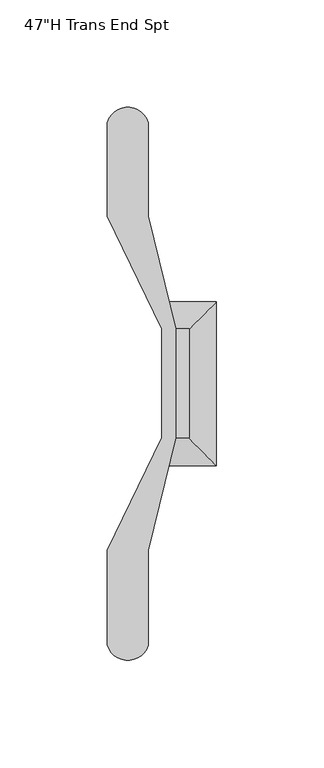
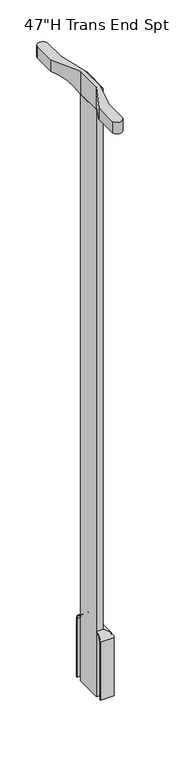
"""IFC4 building model written with IfcOpenShell, lengths in millimetres: furniture geometry."""

from ifc_helpers import new_model, si_unit, frame, origin, place, context, project, spatial, polyline, circle_curve, ellipse_curve, outline, extrude, source, transform, mapped, element, save
from ifc_brep_helpers import plane_surface, cylinder_surface, revolved_surface, advanced_brep


def furniture_3045a4df(model_context):
    return source(origin(), model_context, "Body", "SolidModel", [
        advanced_brep(
        [(1984.8560512, -2410.6387877, 123.825), (1984.8560512, -2410.6387877, 9.525), (1984.8560512, -2412.2262877, 9.525), (1984.8560512, -2412.2262877, 123.825), (1984.8560512, -2423.3387877, 134.9375), (1984.8560512, -2423.3387877, 136.525), (2010.2560512, -2410.6387877, 123.825), (2010.2560512, -2410.6387877, 9.525), (2010.2560512, -2486.8387877, 9.525), (1984.8560512, -2486.8387877, 9.525), (1984.8560512, -2485.2512877, 9.525), (2008.6685512, -2485.2512877, 9.525), (2008.6685512, -2412.2262877, 9.525), (2008.6685512, -2412.2262877, 123.825), (1997.5560512, -2423.3387877, 134.9375), (1997.5560512, -2423.3387877, 136.525), (2010.2560512, -2486.8387877, 123.825), (2008.6685512, -2485.2512877, 123.825), (1997.5560512, -2474.1387877, 134.9375), (1997.5560512, -2474.1387877, 136.525), (1984.8560512, -2486.8387877, 123.825), (1984.8560512, -2474.1387877, 136.525), (1984.8560512, -2474.1387877, 134.9375), (1984.8560512, -2485.2512877, 123.825)],
        [
            (0, 1),
            (1, 2),
            (2, 3),
            (3, 4, circle_curve(frame((1984.8560512, -2423.3387877, 123.825), z_axis=(1.0, 0.0, 0.0), x_axis=(0.0, 1.0, 0.0)), 11.1125)),
            (4, 5),
            (5, 0, circle_curve(frame((1984.8560512, -2423.3387877, 123.825), z_axis=(-1.0, 0.0, 0.0), x_axis=(0.0, 1.0, 0.0)), 12.7)),
            (0, 6),
            (6, 7),
            (7, 1),
            (7, 8),
            (8, 9),
            (9, 10),
            (10, 11),
            (11, 12),
            (12, 2),
            (12, 13),
            (13, 3),
            (13, 14, ellipse_curve(frame((1997.5560512, -2423.3387877, 123.825), z_axis=(0.7071067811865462, -0.7071067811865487, 0.0), x_axis=(0.7071067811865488, 0.7071067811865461, 0.0)), 15.7154482, 11.1125)),
            (14, 4),
            (14, 15),
            (15, 5),
            (15, 6, ellipse_curve(frame((1997.5560512, -2423.3387877, 123.825), z_axis=(-0.7071067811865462, 0.7071067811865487, 0.0), x_axis=(-0.7071067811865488, -0.7071067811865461, 0.0)), 17.9605122, 12.7)),
            (6, 16),
            (16, 8),
            (11, 17),
            (17, 13),
            (17, 18, ellipse_curve(frame((1997.5560512, -2474.1387877, 123.825), z_axis=(-0.7071067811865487, -0.7071067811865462, 0.0), x_axis=(0.7071067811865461, -0.7071067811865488, 0.0)), 15.7154482, 11.1125)),
            (18, 14),
            (18, 19),
            (19, 15),
            (19, 16, ellipse_curve(frame((1997.5560512, -2474.1387877, 123.825), z_axis=(0.7071067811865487, 0.7071067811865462, 0.0), x_axis=(-0.7071067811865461, 0.7071067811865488, 0.0)), 17.9605122, 12.7)),
            (20, 21, circle_curve(frame((1984.8560512, -2474.1387877, 123.825), z_axis=(-1.0, 0.0, 0.0), x_axis=(0.0, -1.0, 0.0)), 12.7)),
            (21, 22),
            (22, 23, circle_curve(frame((1984.8560512, -2474.1387877, 123.825), z_axis=(1.0, 0.0, 0.0), x_axis=(0.0, -1.0, 0.0)), 11.1125)),
            (23, 10),
            (9, 20),
            (16, 20),
            (23, 17),
            (22, 18),
            (21, 19),
        ],
        [
            plane_surface(frame((1984.8560512, -2423.3387877, 136.525), z_axis=(-1.0, 0.0, 0.0), x_axis=(0.0, 0.0, 1.0))),
            plane_surface(frame((1984.8560512, -2410.6387877, 123.825), z_axis=(0.0, 1.0, 0.0), x_axis=(1.0, 0.0, 0.0))),
            plane_surface(frame((1984.8560512, -2410.6387877, 9.525), z_axis=(0.0, 0.0, -1.0), x_axis=(1.0, 0.0, 0.0))),
            plane_surface(frame((1984.8560512, -2412.2262877, 9.525), z_axis=(0.0, -1.0, 0.0), x_axis=(1.0, 0.0, 0.0))),
            revolved_surface(polyline([(2008.6685512, -2412.2262877, 123.825), (1984.8560512, -2412.2262877, 123.825)]), (1984.8560512, -2423.3387877, 123.825), (1.0, 0.0, 0.0)),
            plane_surface(frame((1984.8560512, -2423.3387877, 134.9375), z_axis=(0.0, -1.0, 0.0), x_axis=(1.0, 0.0, 0.0))),
            cylinder_surface(frame((1984.8560512, -2423.3387877, 123.825), z_axis=(-1.0, 0.0, 0.0), x_axis=(0.0, 1.0, 0.0)), 12.7),
            plane_surface(frame((2010.2560512, -2410.6387877, 123.825), z_axis=(1.0, 0.0, 0.0), x_axis=(0.0, -1.0, 0.0))),
            plane_surface(frame((2008.6685512, -2412.2262877, 9.525), z_axis=(-1.0, 0.0, 0.0), x_axis=(0.0, -1.0, 0.0))),
            revolved_surface(polyline([(2008.6685512, -2485.2512877, 123.825), (2008.6685512, -2412.2262877, 123.825)]), (1997.5560512, -2423.3387877, 123.825), (0.0, -1.0, 0.0)),
            plane_surface(frame((1997.5560512, -2423.3387877, 134.9375), z_axis=(-1.0, 0.0, 0.0), x_axis=(0.0, -1.0, 0.0))),
            cylinder_surface(frame((1997.5560512, -2423.3387877, 123.825), z_axis=(0.0, 1.0, 0.0), x_axis=(1.0, 0.0, 0.0)), 12.7),
            plane_surface(frame((1984.8560512, -2474.1387877, 136.525), z_axis=(-1.0, 0.0, 0.0), x_axis=(0.0, 0.0, 1.0))),
            plane_surface(frame((2010.2560512, -2486.8387877, 123.825), z_axis=(0.0, -1.0, 0.0), x_axis=(-1.0, 0.0, 0.0))),
            plane_surface(frame((2008.6685512, -2485.2512877, 9.525), z_axis=(0.0, 1.0, 0.0), x_axis=(-1.0, 0.0, 0.0))),
            revolved_surface(polyline([(1984.8560512, -2485.2512877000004, 123.825), (2008.6685512, -2485.2512877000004, 123.825)]), (1997.5560512, -2474.1387877, 123.825), (-1.0, 0.0, 0.0)),
            plane_surface(frame((1997.5560512, -2474.1387877, 134.9375), z_axis=(0.0, 1.0, 0.0), x_axis=(-1.0, 0.0, 0.0))),
            cylinder_surface(frame((1997.5560512, -2474.1387877, 123.825), z_axis=(1.0, 0.0, 0.0), x_axis=(0.0, -1.0, 0.0)), 12.7),
        ],
        [
            (0, [[1, 2, 3, 4, 5, 6]]),
            (1, [[-1, 7, 8, 9]]),
            (2, [[-2, -9, 10, 11, 12, 13, 14, 15]]),
            (3, [[-3, -15, 16, 17]]),
            (4, [[-4, -17, 18, 19]]),
            (5, [[-5, -19, 20, 21]]),
            (6, [[-6, -21, 22, -7]]),
            (7, [[-8, 23, 24, -10]]),
            (8, [[-16, -14, 25, 26]]),
            (9, [[-18, -26, 27, 28]]),
            (10, [[-20, -28, 29, 30]]),
            (11, [[-22, -30, 31, -23]]),
            (12, [[32, 33, 34, 35, -12, 36]]),
            (13, [[-24, 37, -36, -11]]),
            (14, [[-25, -13, -35, 38]]),
            (15, [[-27, -38, -34, 39]]),
            (16, [[-29, -39, -33, 40]]),
            (17, [[-31, -40, -32, -37]]),
        ],
    ),
        extrude(outline(polyline([(1984.8560512, -2474.1387877), (1984.8560512, -2423.3387877), (1997.5560512, -2423.3387877), (1997.5560512, -2474.1387877), (1984.8560512, -2474.1387877)])), frame((0.0, 0.0, 9.525), z_axis=(0.0, 0.0, 1.0), x_axis=(1.0, 0.0, 0.0)), (0.0, 0.0, 1.0), 1149.35),
        advanced_brep(
        [(1959.4560512, -2526.5262877, 1203.325), (1959.4560512, -2570.7955255, 1203.325), (1978.5060512, -2570.7955255, 1203.325), (1978.5060512, -2526.5262877, 1203.325), (1991.2060512, -2474.1387877, 1203.325), (1991.2060512, -2423.3387877, 1203.325), (1978.5060512, -2370.9512877, 1203.325), (1978.5060512, -2327.2522862, 1203.325), (1959.4560512, -2327.2522862, 1203.325), (1959.4560512, -2370.9512877, 1203.325), (1984.8560512, -2423.3387877, 1203.325), (1984.8560512, -2474.1387877, 1203.325), (1984.8560512, -2474.1387877, 1158.875), (1984.8560512, -2423.3387877, 1158.875), (1991.2060512, -2423.3387877, 1158.875), (1997.5560512, -2423.3387877, 1158.875), (1997.5560512, -2474.1387877, 1158.875), (1991.2060512, -2474.1387877, 1158.875), (1959.4560512, -2526.5262877, 1181.1), (1959.4560512, -2570.7955255, 1181.1), (1978.5060512, -2570.7955255, 1181.1), (1978.5060512, -2526.5262877, 1181.1), (1997.5560512, -2474.1387877, 1196.975), (1997.5560512, -2423.3387877, 1196.975), (1978.5060512, -2370.9512877, 1181.1), (1978.5060512, -2327.2522862, 1181.1), (1959.4560512, -2327.2522862, 1181.1), (1959.4560512, -2370.9512877, 1181.1)],
        [
            (0, 1),
            (1, 2, circle_curve(frame((1968.9810512, -2567.7109066, 1203.325), z_axis=(0.0, 0.0, 1.0), x_axis=(0.0, -1.0, 0.0)), 10.0120177)),
            (2, 3),
            (3, 4),
            (4, 5),
            (5, 6),
            (6, 7),
            (7, 8, circle_curve(frame((1968.9810512, -2330.0517869, 1203.325), z_axis=(0.0, 0.0, 1.0), x_axis=(0.0, -1.0, 0.0)), 9.9278814)),
            (8, 9),
            (9, 10),
            (10, 11),
            (11, 0),
            (12, 13),
            (13, 14),
            (14, 15),
            (15, 16),
            (16, 17),
            (17, 12),
            (0, 18),
            (18, 19),
            (19, 1),
            (19, 20, circle_curve(frame((1968.9810512, -2567.7109066, 1181.1), z_axis=(0.0, 0.0, 1.0), x_axis=(0.0, -1.0, 0.0)), 10.0120177)),
            (20, 2),
            (20, 21),
            (21, 3),
            (21, 17, ellipse_curve(frame((1978.5060512, -2526.5262877, 1108.2450893), z_axis=(-0.9718501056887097, 0.23560002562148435, 0.0), x_axis=(-0.23560002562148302, -0.9718501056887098, 0.0)), 74.9651724, 72.8549107)),
            (17, 4),
            (16, 22),
            (22, 4),
            (15, 23),
            (23, 22),
            (14, 5),
            (5, 23),
            (14, 24, ellipse_curve(frame((1978.5060512, -2370.9512877, 1108.2450893), z_axis=(-0.9718501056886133, -0.2356000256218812, 0.0), x_axis=(-0.2356000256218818, 0.9718501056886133, 0.0)), 74.9651724, 72.8549107)),
            (24, 6),
            (24, 25),
            (25, 7),
            (25, 26, circle_curve(frame((1968.9810512, -2330.0517869, 1181.1), z_axis=(0.0, 0.0, 1.0), x_axis=(0.0, -1.0, 0.0)), 9.9278814)),
            (26, 8),
            (26, 27),
            (27, 9),
            (27, 13, ellipse_curve(frame((1959.4560512, -2370.9512877, 1108.2450893), z_axis=(0.8998141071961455, 0.4362735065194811, 0.0), x_axis=(-0.4362735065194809, 0.8998141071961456, 0.0)), 80.9666243, 72.8549107)),
            (13, 10),
            (12, 11),
            (12, 18, ellipse_curve(frame((1959.4560512, -2526.5262877, 1108.2450893), z_axis=(0.8998141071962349, -0.4362735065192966, 0.0), x_axis=(-0.43627350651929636, -0.8998141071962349, 0.0)), 80.9666243, 72.8549107)),
            (21, 18),
            (27, 24),
        ],
        [
            plane_surface(frame((1959.4560512, -2570.7955255, 1203.325), z_axis=(0.0, 0.0, 1.0), x_axis=(0.0, -1.0, 0.0))),
            plane_surface(frame((1959.4560512, -2570.7955255, 1158.875), z_axis=(0.0, 0.0, -1.0), x_axis=(0.0, 1.0, 0.0))),
            plane_surface(frame((1959.4560512, -2526.5262877, 1203.325), z_axis=(-1.0, 0.0, 0.0), x_axis=(0.0, 0.0, -1.0))),
            cylinder_surface(frame((1968.9810512, -2567.7109066, 1158.875), z_axis=(0.0, 0.0, 1.0), x_axis=(0.0, -1.0, 0.0)), 10.0120177),
            plane_surface(frame((1978.5060512, -2570.7955255, 1203.325), z_axis=(1.0, 0.0, 0.0), x_axis=(0.0, 0.0, -1.0))),
            plane_surface(frame((1978.5060512, -2526.5262877, 1203.325), z_axis=(0.9718501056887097, -0.23560002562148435, 0.0), x_axis=(0.0, 0.0, -1.0))),
            plane_surface(frame((1991.2060512, -2474.1387877, 1203.325), z_axis=(0.0, -1.0, 0.0), x_axis=(0.0, 0.0, -1.0))),
            plane_surface(frame((1997.5560512, -2474.1387877, 1203.325), z_axis=(1.0, 0.0, 0.0), x_axis=(0.0, 0.0, -1.0))),
            plane_surface(frame((1997.5560512, -2423.3387877, 1203.325), z_axis=(0.0, 1.0, 0.0), x_axis=(0.0, 0.0, -1.0))),
            plane_surface(frame((1991.2060512, -2423.3387877, 1203.325), z_axis=(0.9718501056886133, 0.2356000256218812, 0.0), x_axis=(0.0, 0.0, -1.0))),
            plane_surface(frame((1978.5060512, -2370.9512877, 1203.325), z_axis=(1.0, 0.0, 0.0), x_axis=(0.0, 0.0, -1.0))),
            cylinder_surface(frame((1968.9810512, -2330.0517869, 1158.875), z_axis=(0.0, 0.0, 1.0), x_axis=(0.0, -1.0, 0.0)), 9.9278814),
            plane_surface(frame((1959.4560512, -2327.2522862, 1203.325), z_axis=(-1.0, 0.0, 0.0), x_axis=(0.0, 0.0, -1.0))),
            plane_surface(frame((1959.4560512, -2370.9512877, 1203.325), z_axis=(-0.8998141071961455, -0.4362735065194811, 0.0), x_axis=(0.0, 0.0, -1.0))),
            plane_surface(frame((1984.8560512, -2423.3387877, 1203.325), z_axis=(-1.0, 0.0, 0.0), x_axis=(0.0, 0.0, -1.0))),
            plane_surface(frame((1984.8560512, -2474.1387877, 1203.325), z_axis=(-0.8998141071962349, 0.4362735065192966, 0.0), x_axis=(0.0, 0.0, -1.0))),
            revolved_surface(polyline([(1924.1324581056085, -2599.3811984, 1108.2450893), (1996.1678477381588, -2599.3811984, 1108.2450893)]), (2010.2560512, -2526.5262877, 1108.2450893), (-1.0, 0.0, 0.0)),
            plane_surface(frame((1959.4560512, -2615.4262877, 1181.1), z_axis=(0.0, 0.0, -1.0), x_axis=(1.0, 0.0, 0.0))),
            revolved_surface(polyline([(1924.1324581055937, -2443.8061984, 1108.2450893), (1996.1678477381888, -2443.8061984, 1108.2450893)]), (2010.2560512, -2370.9512877, 1108.2450893), (-1.0, 0.0, 0.0)),
            plane_surface(frame((1959.4560512, -2370.9512877, 1181.1), z_axis=(0.0, 1.6550570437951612e-12, -1.0), x_axis=(1.0, 0.0, 0.0))),
            plane_surface(frame((1997.5560512, -2423.3387877, 1196.975), z_axis=(0.7071067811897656, 0.0, 0.7071067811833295), x_axis=(0.0, -1.0, 0.0))),
        ],
        [
            (0, [[1, 2, 3, 4, 5, 6, 7, 8, 9, 10, 11, 12]]),
            (1, [[13, 14, 15, 16, 17, 18]]),
            (2, [[-1, 19, 20, 21]]),
            (3, [[-2, -21, 22, 23]]),
            (4, [[-3, -23, 24, 25]]),
            (5, [[-4, -25, 26, 27]]),
            (6, [[-17, 28, 29, -27]]),
            (7, [[-16, 30, 31, -28]]),
            (8, [[-15, 32, 33, -30]]),
            (9, [[-6, -32, 34, 35]]),
            (10, [[-7, -35, 36, 37]]),
            (11, [[-8, -37, 38, 39]]),
            (12, [[-9, -39, 40, 41]]),
            (13, [[-10, -41, 42, 43]]),
            (14, [[-11, -43, -13, 44]]),
            (15, [[-12, -44, 45, -19]]),
            (16, [[46, -45, -18, -26]]),
            (17, [[-46, -24, -22, -20]]),
            (18, [[47, -34, -14, -42]]),
            (19, [[-47, -40, -38, -36]]),
            (20, [[-5, -29, -31, -33]]),
        ],
    ),
    ])


if __name__ == "__main__":
    model = new_model("IFC4")
    model_context = context("Model", 3, world=origin())
    ifc_project = project(units=[si_unit("LENGTHUNIT", "METRE", prefix="MILLI")], contexts=[model_context])
    site = spatial("IfcSite", under=ifc_project)
    building = spatial("IfcBuilding", under=site)
    placement = place(None, origin())
    furniture_shape = furniture_3045a4df(model_context)
    element("IfcFurniture", 1, ObjectType="HermanMiller_ActionOffice_A1271_FinishedEndStandardBase : 47\"H Trans End Spt", at=placement, inside=building, context=model_context, shape_type="MappedRepresentation", body=[
        mapped(furniture_shape, transform((0.0, 0.0, 0.0), x_axis=(1.0, 0.0, 0.0), y_axis=(0.0, 1.0, 0.0), z_axis=(0.0, 0.0, 1.0))),
    ])
    save(model, "model.ifc")
